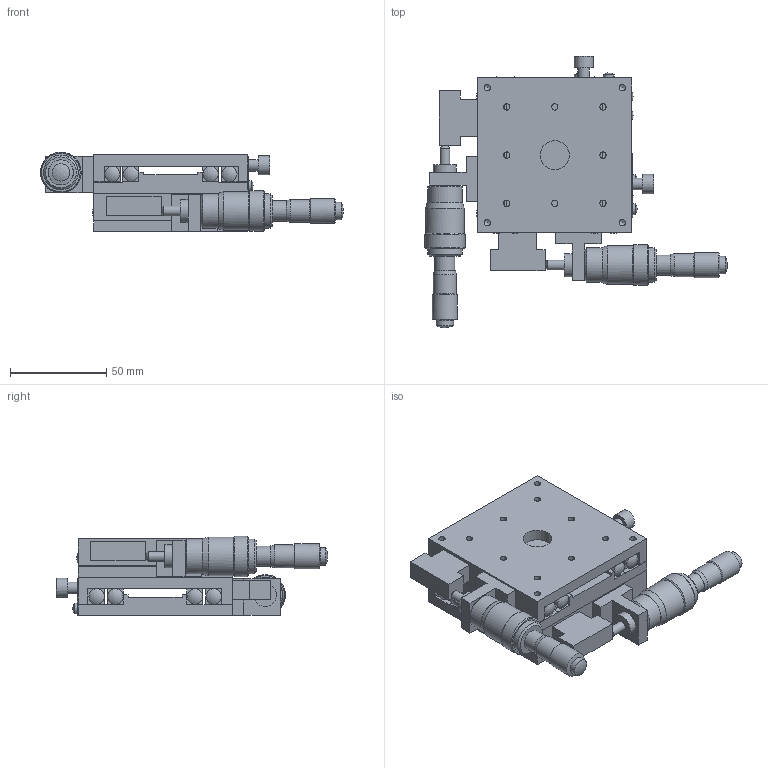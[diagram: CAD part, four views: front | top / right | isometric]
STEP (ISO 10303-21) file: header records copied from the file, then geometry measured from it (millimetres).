
FILE_DESCRIPTION( ( 'STEP AP214' ), '1' );
FILE_NAME( 'C:/Project/3D_B21-80D-配布-070508.stp', '2007-05-08T10:42:52', ( ' ' ), ( ' ' ), 'XStep 1.0', ' ', ' ' );
FILE_SCHEMA( ( 'automotive_design' ) );
Length unit declared in the file: millimetre
Products named in the file (6): 1; 2; 3; 4; 5; 6
Bounding box: 157 x 140.8 x 41.29 mm (x, y, z)
Volume: 273288.2 mm3; surface area: 97777.5 mm2
Topology: 6 solids, 6 shells, 342 faces, 946 edges, 604 vertices
Faces by surface type: plane 190, cylinder 104, sphere 24, cone 24
Full cylindrical faces by diameter (mm): 3 x2, 3.3 x32, 4.5 x8, 5 x4, 5.6 x4, 6 x2, 8 x24, 9 x2, 10 x2, 10.5 x4, 12 x4, 13 x2, 15 x2, 18 x4, 20 x2, 21 x2
Entity records: 12145 total; most frequent: DIRECTION 1614, CARTESIAN_POINT 1562, ORIENTED_EDGE 1392, EDGE_CURVE 696, AXIS2_PLACEMENT_3D 570, EDGE_LOOP 546, VERTEX_POINT 518, LINE 474
